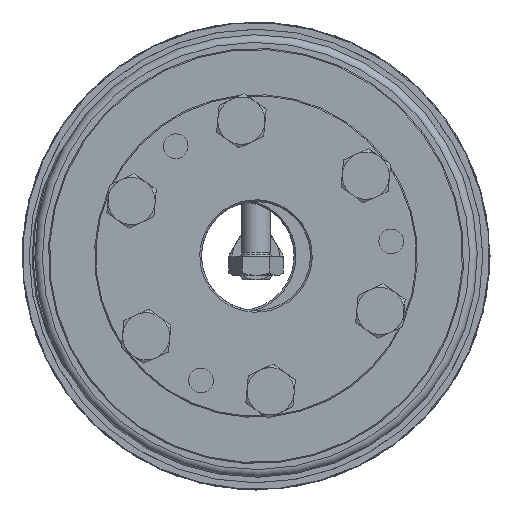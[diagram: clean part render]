
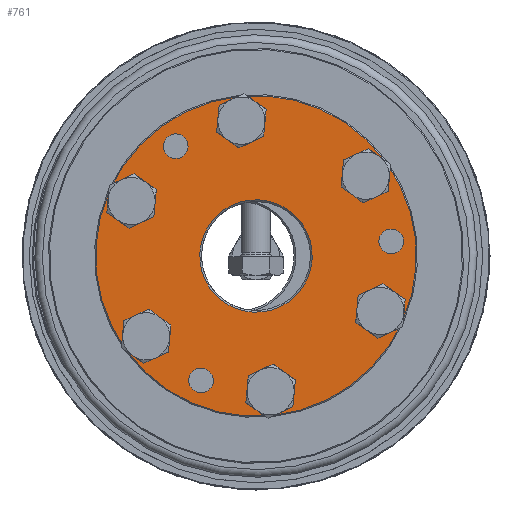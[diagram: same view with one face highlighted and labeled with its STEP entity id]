
A CAD part, left-side view. The second image highlights one B-rep face of the part: STEP entity #761.
In plain terms, the highlighted planar face has unit normal (-1, 0, 0).
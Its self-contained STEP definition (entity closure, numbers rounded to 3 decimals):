
#761 = ADVANCED_FACE( 'NONE', ( #1271, #1272, #1273, #1274, #1275, #1276, #1277, #1278, #1279, #1280, #1281 ), #1282, .F. );
#1271 = FACE_OUTER_BOUND( '', #1967, .T. );
#1272 = FACE_BOUND( '', #1968, .T. );
#1273 = FACE_BOUND( '', #1969, .T. );
#1274 = FACE_BOUND( '', #1970, .T. );
#1275 = FACE_BOUND( '', #1971, .T. );
#1276 = FACE_BOUND( '', #1972, .T. );
#1277 = FACE_BOUND( '', #1973, .T. );
#1278 = FACE_BOUND( '', #1974, .T. );
#1279 = FACE_BOUND( '', #1975, .T. );
#1280 = FACE_BOUND( '', #1976, .T. );
#1281 = FACE_BOUND( '', #1977, .T. );
#1282 = PLANE( '', #1978 );
#1967 = EDGE_LOOP( '', ( #2828 ) );
#1968 = EDGE_LOOP( '', ( #2829 ) );
#1969 = EDGE_LOOP( '', ( #2830 ) );
#1970 = EDGE_LOOP( '', ( #2831 ) );
#1971 = EDGE_LOOP( '', ( #2832 ) );
#1972 = EDGE_LOOP( '', ( #2833 ) );
#1973 = EDGE_LOOP( '', ( #2834 ) );
#1974 = EDGE_LOOP( '', ( #2835 ) );
#1975 = EDGE_LOOP( '', ( #2836 ) );
#1976 = EDGE_LOOP( '', ( #2837 ) );
#1977 = EDGE_LOOP( '', ( #2838 ) );
#1978 = AXIS2_PLACEMENT_3D( '', #2839, #2840, #2841 );
#2828 = ORIENTED_EDGE( '', *, *, #3970, .T. );
#2829 = ORIENTED_EDGE( '', *, *, #3968, .T. );
#2830 = ORIENTED_EDGE( '', *, *, #3983, .F. );
#2831 = ORIENTED_EDGE( '', *, *, #3984, .F. );
#2832 = ORIENTED_EDGE( '', *, *, #3985, .F. );
#2833 = ORIENTED_EDGE( '', *, *, #3973, .F. );
#2834 = ORIENTED_EDGE( '', *, *, #3986, .F. );
#2835 = ORIENTED_EDGE( '', *, *, #3987, .F. );
#2836 = ORIENTED_EDGE( '', *, *, #3962, .F. );
#2837 = ORIENTED_EDGE( '', *, *, #3988, .F. );
#2838 = ORIENTED_EDGE( '', *, *, #3989, .F. );
#2839 = CARTESIAN_POINT( '', ( 0., 15., 0. ) );
#2840 = DIRECTION( '', ( 1., 0., 0. ) );
#2841 = DIRECTION( '', ( 0., 1., 0. ) );
#3962 = EDGE_CURVE( 'NONE', #4417, #4417, #4418, .T. );
#3968 = EDGE_CURVE( 'NONE', #4429, #4429, #4430, .T. );
#3970 = EDGE_CURVE( 'NONE', #4433, #4433, #4434, .T. );
#3973 = EDGE_CURVE( 'NONE', #4439, #4439, #4440, .T. );
#3983 = EDGE_CURVE( 'NONE', #4459, #4459, #4460, .T. );
#3984 = EDGE_CURVE( 'NONE', #4461, #4461, #4462, .T. );
#3985 = EDGE_CURVE( 'NONE', #4463, #4463, #4464, .T. );
#3986 = EDGE_CURVE( 'NONE', #4465, #4465, #4466, .T. );
#3987 = EDGE_CURVE( 'NONE', #4467, #4467, #4468, .T. );
#3988 = EDGE_CURVE( 'NONE', #4469, #4469, #4470, .T. );
#3989 = EDGE_CURVE( 'NONE', #4471, #4471, #4472, .T. );
#4417 = VERTEX_POINT( '', #5029 );
#4418 = CIRCLE( '', #5030, 4.5 );
#4429 = VERTEX_POINT( '', #5041 );
#4430 = CIRCLE( '', #5042, 15.5 );
#4433 = VERTEX_POINT( '', #5045 );
#4434 = CIRCLE( '', #5046, 44.2 );
#4439 = VERTEX_POINT( '', #5051 );
#4440 = CIRCLE( '', #5052, 4.5 );
#4459 = VERTEX_POINT( '', #5071 );
#4460 = CIRCLE( '', #5072, 3.4 );
#4461 = VERTEX_POINT( '', #5073 );
#4462 = CIRCLE( '', #5074, 4.5 );
#4463 = VERTEX_POINT( '', #5075 );
#4464 = CIRCLE( '', #5076, 4.5 );
#4465 = VERTEX_POINT( '', #5077 );
#4466 = CIRCLE( '', #5078, 4.5 );
#4467 = VERTEX_POINT( '', #5079 );
#4468 = CIRCLE( '', #5080, 4.5 );
#4469 = VERTEX_POINT( '', #5081 );
#4470 = CIRCLE( '', #5082, 3.4 );
#4471 = VERTEX_POINT( '', #5083 );
#4472 = CIRCLE( '', #5084, 3.4 );
#5029 = CARTESIAN_POINT( '', ( 0., -18.75, 36.976 ) );
#5030 = AXIS2_PLACEMENT_3D( '', #6065, #6066, #6067 );
#5041 = CARTESIAN_POINT( '', ( 0., 0., -15.5 ) );
#5042 = AXIS2_PLACEMENT_3D( '', #6083, #6084, #6085 );
#5045 = CARTESIAN_POINT( '', ( 0., 0., -44.2 ) );
#5046 = AXIS2_PLACEMENT_3D( '', #6089, #6090, #6091 );
#5051 = CARTESIAN_POINT( '', ( 0., 18.75, -27.976 ) );
#5052 = AXIS2_PLACEMENT_3D( '', #6098, #6099, #6100 );
#5071 = CARTESIAN_POINT( '', ( 0., 0., -34.1 ) );
#5072 = AXIS2_PLACEMENT_3D( '', #6128, #6129, #6130 );
#5073 = CARTESIAN_POINT( '', ( 0., 18.75, 36.976 ) );
#5074 = AXIS2_PLACEMENT_3D( '', #6131, #6132, #6133 );
#5075 = CARTESIAN_POINT( '', ( 0., 37.5, 4.5 ) );
#5076 = AXIS2_PLACEMENT_3D( '', #6134, #6135, #6136 );
#5077 = CARTESIAN_POINT( '', ( 0., -18.75, -27.976 ) );
#5078 = AXIS2_PLACEMENT_3D( '', #6137, #6138, #6139 );
#5079 = CARTESIAN_POINT( '', ( 0., -37.5, 4.5 ) );
#5080 = AXIS2_PLACEMENT_3D( '', #6140, #6141, #6142 );
#5081 = CARTESIAN_POINT( '', ( 0., 32.476, 22.15 ) );
#5082 = AXIS2_PLACEMENT_3D( '', #6143, #6144, #6145 );
#5083 = CARTESIAN_POINT( '', ( 0., -32.476, 22.15 ) );
#5084 = AXIS2_PLACEMENT_3D( '', #6146, #6147, #6148 );
#6065 = CARTESIAN_POINT( '', ( 0., -18.75, 32.476 ) );
#6066 = DIRECTION( '', ( -1., 0., 0. ) );
#6067 = DIRECTION( '', ( 0., 0., 1. ) );
#6083 = CARTESIAN_POINT( '', ( 0., 0., 0. ) );
#6084 = DIRECTION( '', ( 1., 0., 0. ) );
#6085 = DIRECTION( '', ( 0., 0., -1. ) );
#6089 = CARTESIAN_POINT( '', ( 0., 0., 0. ) );
#6090 = DIRECTION( '', ( -1., 0., 0. ) );
#6091 = DIRECTION( '', ( 0., 0., -1. ) );
#6098 = CARTESIAN_POINT( '', ( 0., 18.75, -32.476 ) );
#6099 = DIRECTION( '', ( -1., 0., 0. ) );
#6100 = DIRECTION( '', ( 0., 0., 1. ) );
#6128 = CARTESIAN_POINT( '', ( 0., 0., -37.5 ) );
#6129 = DIRECTION( '', ( -1., 0., 0. ) );
#6130 = DIRECTION( '', ( 0., 0., 1. ) );
#6131 = CARTESIAN_POINT( '', ( 0., 18.75, 32.476 ) );
#6132 = DIRECTION( '', ( -1., 0., 0. ) );
#6133 = DIRECTION( '', ( 0., 0., 1. ) );
#6134 = CARTESIAN_POINT( '', ( 0., 37.5, 0. ) );
#6135 = DIRECTION( '', ( -1., 0., 0. ) );
#6136 = DIRECTION( '', ( 0., 0., 1. ) );
#6137 = CARTESIAN_POINT( '', ( 0., -18.75, -32.476 ) );
#6138 = DIRECTION( '', ( -1., 0., 0. ) );
#6139 = DIRECTION( '', ( 0., 0., 1. ) );
#6140 = CARTESIAN_POINT( '', ( 0., -37.5, 0. ) );
#6141 = DIRECTION( '', ( -1., 0., 0. ) );
#6142 = DIRECTION( '', ( 0., 0., 1. ) );
#6143 = CARTESIAN_POINT( '', ( 0., 32.476, 18.75 ) );
#6144 = DIRECTION( '', ( -1., 0., 0. ) );
#6145 = DIRECTION( '', ( 0., 0., 1. ) );
#6146 = CARTESIAN_POINT( '', ( 0., -32.476, 18.75 ) );
#6147 = DIRECTION( '', ( -1., 0., 0. ) );
#6148 = DIRECTION( '', ( 0., 0., 1. ) );
